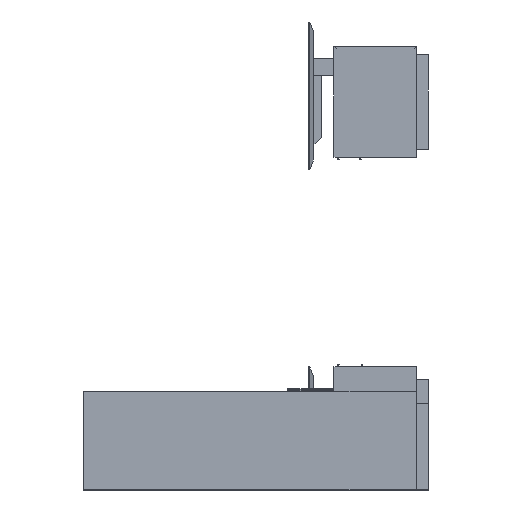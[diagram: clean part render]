
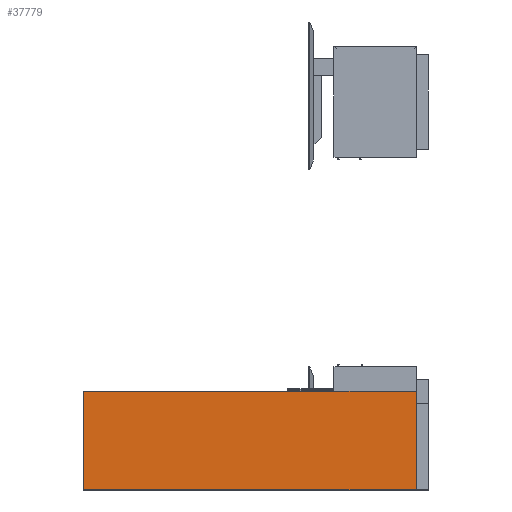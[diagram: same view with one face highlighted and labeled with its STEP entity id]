
A CAD part, left-side view. The second image highlights one B-rep face of the part: STEP entity #37779.
In plain terms, the highlighted planar face has unit normal (-1, 0, 0).
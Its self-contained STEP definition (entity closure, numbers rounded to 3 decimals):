
#6004=FACE_OUTER_BOUND('',#8051,.T.);
#8051=EDGE_LOOP('',(#32159,#32160,#32161,#32162));
#11482=LINE('',#68388,#15001);
#11483=LINE('',#68390,#15002);
#11484=LINE('',#68392,#15003);
#11485=LINE('',#68393,#15004);
#15001=VECTOR('',#52205,0.394);
#15002=VECTOR('',#52206,0.394);
#15003=VECTOR('',#52207,0.394);
#15004=VECTOR('',#52208,0.394);
#18110=VERTEX_POINT('',#68386);
#18111=VERTEX_POINT('',#68387);
#18112=VERTEX_POINT('',#68389);
#18113=VERTEX_POINT('',#68391);
#22814=EDGE_CURVE('',#18110,#18111,#11482,.T.);
#22815=EDGE_CURVE('',#18112,#18110,#11483,.T.);
#22816=EDGE_CURVE('',#18112,#18113,#11484,.T.);
#22817=EDGE_CURVE('',#18113,#18111,#11485,.T.);
#32159=ORIENTED_EDGE('',*,*,#22814,.F.);
#32160=ORIENTED_EDGE('',*,*,#22815,.F.);
#32161=ORIENTED_EDGE('',*,*,#22816,.T.);
#32162=ORIENTED_EDGE('',*,*,#22817,.T.);
#33854=PLANE('',#42201);
#37779=ADVANCED_FACE('',(#6004),#33854,.F.);
#42201=AXIS2_PLACEMENT_3D('',#68385,#52203,#52204);
#52203=DIRECTION('center_axis',(1.,0.,0.));
#52204=DIRECTION('ref_axis',(0.,1.,0.));
#52205=DIRECTION('',(0.,-1.,0.));
#52206=DIRECTION('',(0.,0.,1.));
#52207=DIRECTION('',(0.,-1.,0.));
#52208=DIRECTION('',(0.,0.,1.));
#68385=CARTESIAN_POINT('Origin',(-150.,-80.25,0.));
#68386=CARTESIAN_POINT('',(-150.,0.75,24.));
#68387=CARTESIAN_POINT('',(-150.,-80.25,24.));
#68388=CARTESIAN_POINT('',(-150.,-60.,24.));
#68389=CARTESIAN_POINT('',(-150.,0.75,0.));
#68390=CARTESIAN_POINT('',(-150.,0.75,0.));
#68391=CARTESIAN_POINT('',(-150.,-80.25,0.));
#68392=CARTESIAN_POINT('',(-150.,0.75,0.));
#68393=CARTESIAN_POINT('',(-150.,-80.25,0.));
